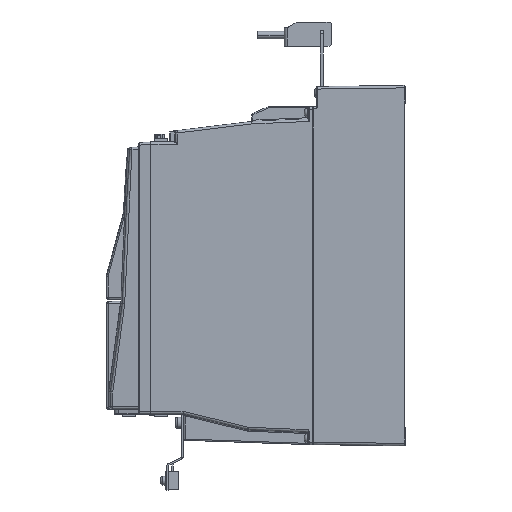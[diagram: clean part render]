
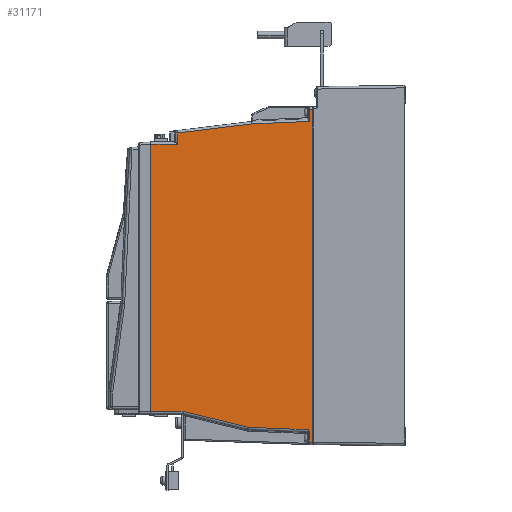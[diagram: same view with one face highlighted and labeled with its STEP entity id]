
A CAD part, left-side view. The second image highlights one B-rep face of the part: STEP entity #31171.
In plain terms, the highlighted planar face has unit normal (-1, 0, 0).
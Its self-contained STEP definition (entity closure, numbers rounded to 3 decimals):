
#204 = CARTESIAN_POINT ( 'NONE',  ( -64., 73.67, -287. ) ) ;
#962 = DIRECTION ( 'NONE',  ( 0., -1., 0. ) ) ;
#1124 = LINE ( 'NONE', #17911, #52978 ) ;
#1319 = ORIENTED_EDGE ( 'NONE', *, *, #29962, .F. ) ;
#1653 = VERTEX_POINT ( 'NONE', #31754 ) ;
#1869 = VERTEX_POINT ( 'NONE', #39778 ) ;
#3016 = CARTESIAN_POINT ( 'NONE',  ( -64., 182.5, -47.5 ) ) ;
#3551 = CARTESIAN_POINT ( 'NONE',  ( -64., 76.5, -279.014 ) ) ;
#3830 = CARTESIAN_POINT ( 'NONE',  ( -64., 122.835, -30.995 ) ) ;
#4293 = VERTEX_POINT ( 'NONE', #12673 ) ;
#5955 = DIRECTION ( 'NONE',  ( 0., 0., 1. ) ) ;
#5975 = DIRECTION ( 'NONE',  ( 0., 0.993, -0.121 ) ) ;
#6250 = EDGE_CURVE ( 'NONE', #27186, #47296, #52583, .T. ) ;
#6337 = EDGE_CURVE ( 'NONE', #1869, #4293, #17385, .T. ) ;
#6458 = PLANE ( 'NONE',  #45074 ) ;
#7221 = CARTESIAN_POINT ( 'NONE',  ( -64., 213.846, -34.952 ) ) ;
#7680 = CARTESIAN_POINT ( 'NONE',  ( -64., 202.8, -287. ) ) ;
#10194 = LINE ( 'NONE', #7221, #53296 ) ;
#10474 = CARTESIAN_POINT ( 'NONE',  ( -64., 202.8, -47.5 ) ) ;
#10505 = DIRECTION ( 'NONE',  ( 0., 0., -1. ) ) ;
#11460 = DIRECTION ( 'NONE',  ( 0., 0., -1. ) ) ;
#11668 = VERTEX_POINT ( 'NONE', #26819 ) ;
#11999 = CARTESIAN_POINT ( 'NONE',  ( -64., 73.67, -19. ) ) ;
#12318 = EDGE_CURVE ( 'NONE', #34622, #26708, #38054, .T. ) ;
#12469 = ORIENTED_EDGE ( 'NONE', *, *, #12318, .T. ) ;
#12673 = CARTESIAN_POINT ( 'NONE',  ( -64., 76.5, -28.98 ) ) ;
#13164 = ORIENTED_EDGE ( 'NONE', *, *, #19762, .T. ) ;
#13919 = CARTESIAN_POINT ( 'NONE',  ( -64., 76.5, -278.822 ) ) ;
#14020 = VECTOR ( 'NONE', #50728, 1000. ) ;
#14179 = EDGE_CURVE ( 'NONE', #1653, #26862, #27928, .T. ) ;
#14619 = CARTESIAN_POINT ( 'NONE',  ( -64., 125.536, -275.09 ) ) ;
#14622 = VECTOR ( 'NONE', #26861, 1000. ) ;
#14949 = CARTESIAN_POINT ( 'NONE',  ( -64., 177.407, -262.5 ) ) ;
#15027 = LINE ( 'NONE', #35304, #38385 ) ;
#15477 = EDGE_CURVE ( 'NONE', #23242, #47296, #40181, .T. ) ;
#17218 = CARTESIAN_POINT ( 'NONE',  ( -64., 204.2, -47.5 ) ) ;
#17359 = VECTOR ( 'NONE', #27022, 1000. ) ;
#17385 = LINE ( 'NONE', #29296, #46673 ) ;
#17526 = VERTEX_POINT ( 'NONE', #17218 ) ;
#17911 = CARTESIAN_POINT ( 'NONE',  ( -64., 232.631, -44.384 ) ) ;
#18258 = CARTESIAN_POINT ( 'NONE',  ( -64., 77.259, -277.308 ) ) ;
#18266 = CARTESIAN_POINT ( 'NONE',  ( -64., 76.92, -277.036 ) ) ;
#18440 = LINE ( 'NONE', #43017, #30297 ) ;
#19762 = EDGE_CURVE ( 'NONE', #11668, #45868, #53589, .T. ) ;
#19763 = ORIENTED_EDGE ( 'NONE', *, *, #48674, .T. ) ;
#19992 = ORIENTED_EDGE ( 'NONE', *, *, #51388, .T. ) ;
#20931 = DIRECTION ( 'NONE',  ( 0., 0., -1. ) ) ;
#21516 = CARTESIAN_POINT ( 'NONE',  ( -64., 76.733, -278.099 ) ) ;
#22568 = VERTEX_POINT ( 'NONE', #3830 ) ;
#22873 = DIRECTION ( 'NONE',  ( 0., 0., -1. ) ) ;
#23241 = FACE_OUTER_BOUND ( 'NONE', #28548, .T. ) ;
#23242 = VERTEX_POINT ( 'NONE', #39490 ) ;
#23616 = EDGE_CURVE ( 'NONE', #4293, #22568, #10194, .T. ) ;
#24206 = VECTOR ( 'NONE', #37916, 1000. ) ;
#24717 = EDGE_CURVE ( 'NONE', #26708, #28338, #30602, .T. ) ;
#25230 = LINE ( 'NONE', #25761, #24206 ) ;
#25761 = CARTESIAN_POINT ( 'NONE',  ( -64., 202.8, -19. ) ) ;
#26708 = VERTEX_POINT ( 'NONE', #14949 ) ;
#26819 = CARTESIAN_POINT ( 'NONE',  ( -64., 77.5, -277.013 ) ) ;
#26862 = VERTEX_POINT ( 'NONE', #3016 ) ;
#26861 = DIRECTION ( 'NONE',  ( 0., 0., -1. ) ) ;
#27012 = DIRECTION ( 'NONE',  ( 0., 0.999, -0.043 ) ) ;
#27022 = DIRECTION ( 'NONE',  ( 0., 1., 0. ) ) ;
#27186 = VERTEX_POINT ( 'NONE', #46866 ) ;
#27688 = ORIENTED_EDGE ( 'NONE', *, *, #24717, .T. ) ;
#27928 = LINE ( 'NONE', #52810, #14622 ) ;
#28338 = VERTEX_POINT ( 'NONE', #46152 ) ;
#28548 = EDGE_LOOP ( 'NONE', ( #52418, #38722, #45980, #40171, #49248, #29782, #49768, #35230, #1319, #12469, #27688, #19763, #13164, #19992 ) ) ;
#29296 = CARTESIAN_POINT ( 'NONE',  ( -64., 76.5, -289. ) ) ;
#29782 = ORIENTED_EDGE ( 'NONE', *, *, #41042, .T. ) ;
#29962 = EDGE_CURVE ( 'NONE', #34622, #17526, #18440, .T. ) ;
#30152 = CARTESIAN_POINT ( 'NONE',  ( -64., 76.5, -279.014 ) ) ;
#30297 = VECTOR ( 'NONE', #5955, 1000. ) ;
#30602 = LINE ( 'NONE', #14619, #40447 ) ;
#31171 = ADVANCED_FACE ( 'NONE', ( #23241 ), #6458, .F. ) ;
#31754 = CARTESIAN_POINT ( 'NONE',  ( -64., 182.5, -38.271 ) ) ;
#33495 = EDGE_CURVE ( 'NONE', #27186, #1869, #25230, .T. ) ;
#33680 = VECTOR ( 'NONE', #11460, 1000. ) ;
#33681 = CARTESIAN_POINT ( 'NONE',  ( -64., 77.5, -277.013 ) ) ;
#34097 = EDGE_CURVE ( 'NONE', #26862, #17526, #47531, .T. ) ;
#34219 = LINE ( 'NONE', #18266, #14020 ) ;
#34622 = VERTEX_POINT ( 'NONE', #49084 ) ;
#34917 = DIRECTION ( 'NONE',  ( 0., -0.972, -0.236 ) ) ;
#35230 = ORIENTED_EDGE ( 'NONE', *, *, #34097, .T. ) ;
#35304 = CARTESIAN_POINT ( 'NONE',  ( -64., 76.5, -289. ) ) ;
#36175 = VECTOR ( 'NONE', #52892, 1000. ) ;
#37916 = DIRECTION ( 'NONE',  ( 0., 1., 0. ) ) ;
#38054 = LINE ( 'NONE', #46148, #41865 ) ;
#38276 = CARTESIAN_POINT ( 'NONE',  ( -64., 77.016, -277.606 ) ) ;
#38385 = VECTOR ( 'NONE', #22873, 1000. ) ;
#38722 = ORIENTED_EDGE ( 'NONE', *, *, #6250, .F. ) ;
#39065 = CARTESIAN_POINT ( 'NONE',  ( -64., 76.535, -278.634 ) ) ;
#39490 = CARTESIAN_POINT ( 'NONE',  ( -64., 76.5, -287. ) ) ;
#39778 = CARTESIAN_POINT ( 'NONE',  ( -64., 76.5, -19. ) ) ;
#40171 = ORIENTED_EDGE ( 'NONE', *, *, #6337, .T. ) ;
#40181 = LINE ( 'NONE', #7680, #36175 ) ;
#40447 = VECTOR ( 'NONE', #34917, 1000. ) ;
#41042 = EDGE_CURVE ( 'NONE', #22568, #1653, #1124, .T. ) ;
#41865 = VECTOR ( 'NONE', #962, 1000. ) ;
#42059 = CARTESIAN_POINT ( 'NONE',  ( -64., 76.652, -278.27 ) ) ;
#43017 = CARTESIAN_POINT ( 'NONE',  ( -64., 204.2, -262.5 ) ) ;
#45074 = AXIS2_PLACEMENT_3D ( 'NONE', #51915, #47836, #10505 ) ;
#45868 = VERTEX_POINT ( 'NONE', #3551 ) ;
#45980 = ORIENTED_EDGE ( 'NONE', *, *, #33495, .T. ) ;
#46148 = CARTESIAN_POINT ( 'NONE',  ( -64., 202.8, -262.5 ) ) ;
#46152 = CARTESIAN_POINT ( 'NONE',  ( -64., 125.725, -275.044 ) ) ;
#46673 = VECTOR ( 'NONE', #20931, 1000. ) ;
#46866 = CARTESIAN_POINT ( 'NONE',  ( -64., 73.67, -19. ) ) ;
#47296 = VERTEX_POINT ( 'NONE', #204 ) ;
#47531 = LINE ( 'NONE', #10474, #17359 ) ;
#47836 = DIRECTION ( 'NONE',  ( 1., 0., 0. ) ) ;
#48674 = EDGE_CURVE ( 'NONE', #28338, #11668, #34219, .T. ) ;
#49084 = CARTESIAN_POINT ( 'NONE',  ( -64., 204.2, -262.5 ) ) ;
#49248 = ORIENTED_EDGE ( 'NONE', *, *, #23616, .T. ) ;
#49768 = ORIENTED_EDGE ( 'NONE', *, *, #14179, .T. ) ;
#50728 = DIRECTION ( 'NONE',  ( 0., -0.999, -0.041 ) ) ;
#51388 = EDGE_CURVE ( 'NONE', #45868, #23242, #15027, .T. ) ;
#51915 = CARTESIAN_POINT ( 'NONE',  ( -64., 202.8, -289. ) ) ;
#52418 = ORIENTED_EDGE ( 'NONE', *, *, #15477, .T. ) ;
#52583 = LINE ( 'NONE', #11999, #33680 ) ;
#52810 = CARTESIAN_POINT ( 'NONE',  ( -64., 182.5, -289. ) ) ;
#52892 = DIRECTION ( 'NONE',  ( 0., -1., 0. ) ) ;
#52978 = VECTOR ( 'NONE', #5975, 1000. ) ;
#53296 = VECTOR ( 'NONE', #27012, 1000. ) ;
#53589 = B_SPLINE_CURVE_WITH_KNOTS ( 'NONE', 3,
 ( #33681, #18258, #38276, #21516, #42059, #39065, #13919, #30152 ),
 .UNSPECIFIED., .F., .F.,
 ( 4, 2, 2, 4 ),
 ( 0., 0.001, 0.002, 0.002 ),
 .UNSPECIFIED. ) ;
